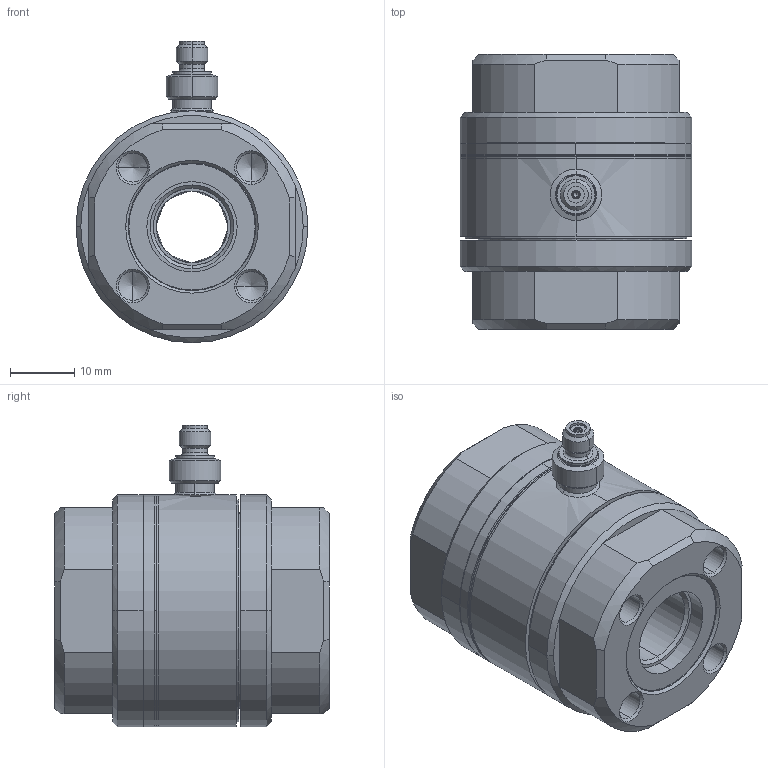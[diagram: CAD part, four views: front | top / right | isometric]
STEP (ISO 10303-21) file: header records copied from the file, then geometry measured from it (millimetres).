
FILE_DESCRIPTION((''),'2;1');
FILE_NAME('CFT-70KN','2019-03-20T',('esche'),(''),'CREO PARAMETRIC BY PTC INC, 2017170','CREO PARAMETRIC BY PTC INC, 2017170','');
FILE_SCHEMA(('AUTOMOTIVE_DESIGN { 1 0 10303 214 1 1 1 1 }'));
Length unit declared in the file: millimetre
Products named in the file (1): CFT-70KN
Bounding box: 36 x 42.67 x 46.8 mm (x, y, z)
Surface area: 12567 mm2 (no closed solid volume)
Topology: 0 solids, 14 shells, 271 faces, 699 edges, 435 vertices
Faces by surface type: bspline 271
Entity records: 11071 total; most frequent: CARTESIAN_POINT 5333, ORIENTED_EDGE 1262, DIRECTION 895, EDGE_CURVE 681, VERTEX_POINT 435, AXIS2_PLACEMENT_3D 314, CIRCLE 314, EDGE_LOOP 296
